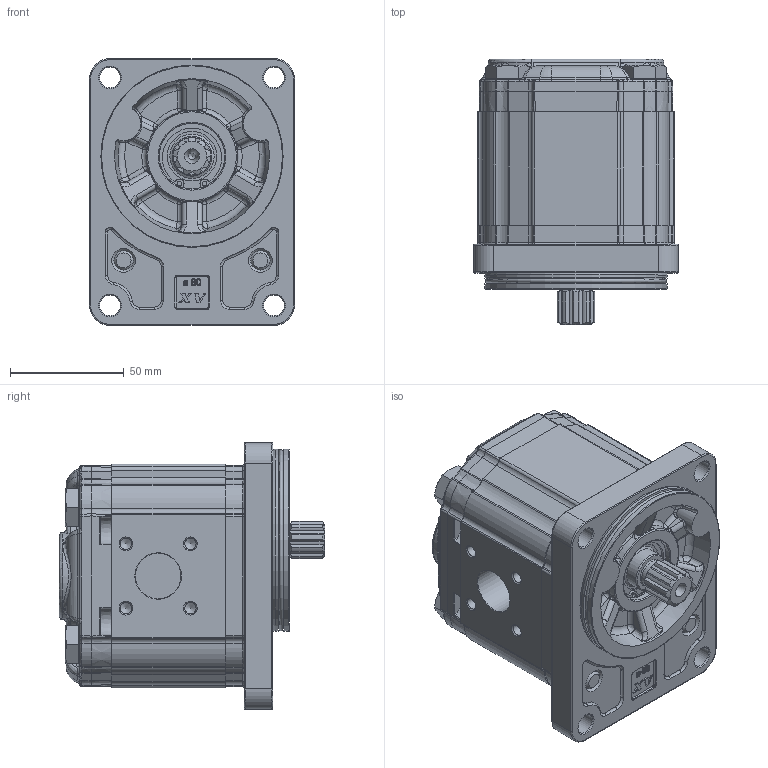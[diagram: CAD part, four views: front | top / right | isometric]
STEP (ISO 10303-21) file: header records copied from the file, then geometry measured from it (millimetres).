
FILE_DESCRIPTION(/* description */ ('Unknown'),/* implementation_level */ '2;1');
FILE_NAME(/* name */ 'X2P4342HSRA',/* time_stamp */ '2021-07-16T13:02:02+02:00',/* author */ ('Unknown'),/* organization */ ('Unknown'),/* preprocessor_version */ 'ST-DEVELOPER v16.7',/* originating_system */ 'Solid Edge',/* authorisation */ 'Unknown');
FILE_SCHEMA (('AUTOMOTIVE_DESIGN {1 0 10303 214 3 1 1}'));
Products named in the file (5): X2P4342HSRA; X2P42; 2H; X2SRH50; XP217-A
Assembly tree (4 placements, depth 2):
  X2P4342HSRA
    X2P42
    2H
    X2SRH50
    XP217-A
Bounding box: 90 x 116.5 x 117 mm (x, y, z)
Volume: 699972.8 mm3; surface area: 110790.8 mm2
Topology: 4 solids, 5 shells, 1949 faces, 4776 edges, 2884 vertices
Faces by surface type: cylinder 608, bspline 537, plane 450, torus 234, cone 96, sphere 24
Full cylindrical faces by diameter (mm): 2 x2, 5 x8, 9 x4, 10 x4, 10.5 x8, 12 x1, 15 x1, 16 x4, 17.42 x1, 17.48 x2, 18.724 x1, 20 x1, 20.595 x1, 21.741 x1, 25.834 x1, 28.56 x1, 28.57 x1, 28.8 x1, 30.5 x1, 40 x1, 77.2 x2, 80 x2
Entity records: 82654 total; most frequent: CARTESIAN_POINT 28180, ORIENTED_EDGE 9076, DIRECTION 7514, EDGE_CURVE 4538, AXIS2_PLACEMENT_3D 2930, VERTEX_POINT 2827, FACE_BOUND 2195, EDGE_LOOP 2185
